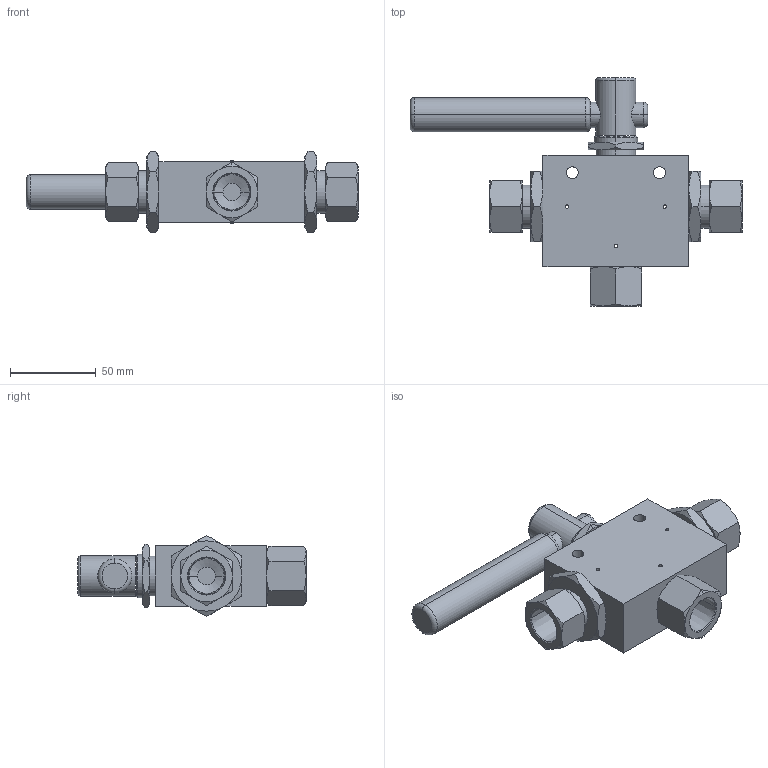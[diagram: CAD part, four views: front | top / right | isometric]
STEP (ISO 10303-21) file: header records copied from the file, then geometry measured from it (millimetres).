
FILE_DESCRIPTION (( 'STEP AP203' ), '1' );
FILE_NAME ('BVN05S08-3-180.STEP', '2022-04-12T10:33:20', ( '' ), ( '' ), 'SwSTEP 2.0', 'SolidWorks 2020', '' );
FILE_SCHEMA (( 'CONFIG_CONTROL_DESIGN' ));
Length unit declared in the file: millimetre
Products named in the file (1): BVN05S08-3-180
Bounding box: 193.5 x 133 x 47.34 mm (x, y, z)
Volume: 294693.1 mm3; surface area: 51240.1 mm2
Topology: 1 solids, 1 shells, 207 faces, 462 edges, 272 vertices
Faces by surface type: cone 96, plane 65, cylinder 38, torus 8
Entity records: 6621 total; most frequent: CARTESIAN_POINT 2098, ORIENTED_EDGE 924, DIRECTION 918, EDGE_CURVE 462, AXIS2_PLACEMENT_3D 400, VERTEX_POINT 272, EDGE_LOOP 236, ADVANCED_FACE 207
